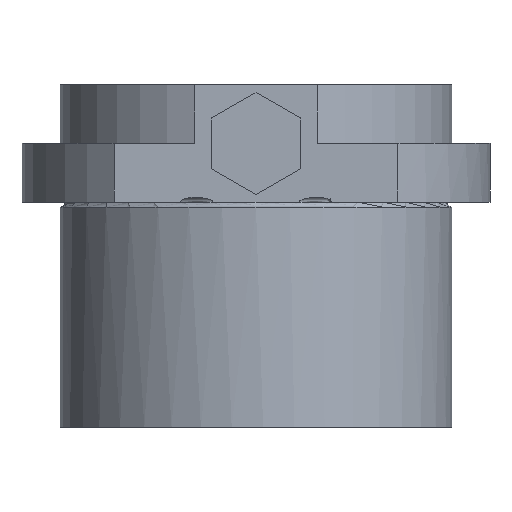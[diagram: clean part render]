
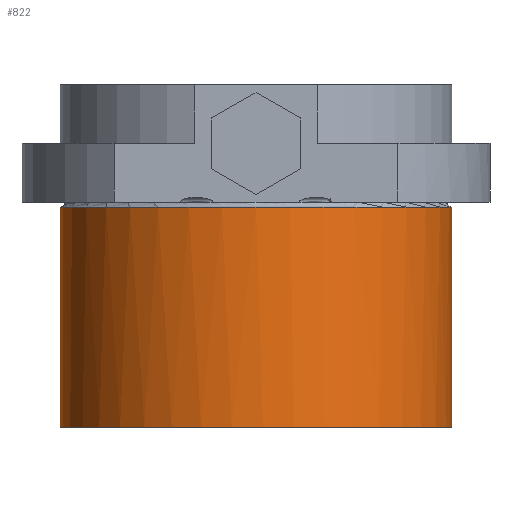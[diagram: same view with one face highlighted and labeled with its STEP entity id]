
A CAD part, front view. The second image highlights one B-rep face of the part: STEP entity #822.
In plain terms, the highlighted cylindrical face has radius 20 mm (diameter 40 mm), a partial arc.
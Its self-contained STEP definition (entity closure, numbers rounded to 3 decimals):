
#454=CARTESIAN_POINT('Control Point',(-20.,0.,-23.)) ;
#455=CARTESIAN_POINT('Control Point',(-20.,-1.972,-23.)) ;
#456=CARTESIAN_POINT('Control Point',(-19.757,-3.944,-23.)) ;
#457=CARTESIAN_POINT('Control Point',(-19.271,-5.876,-23.)) ;
#458=CARTESIAN_POINT('Control Point',(-17.833,-9.58,-23.)) ;
#459=CARTESIAN_POINT('Control Point',(-15.539,-12.824,-23.)) ;
#460=CARTESIAN_POINT('Control Point',(-14.196,-14.296,-23.)) ;
#461=CARTESIAN_POINT('Control Point',(-11.176,-16.878,-23.)) ;
#462=CARTESIAN_POINT('Control Point',(-7.62,-18.65,-23.)) ;
#463=CARTESIAN_POINT('Control Point',(-5.741,-19.311,-23.)) ;
#464=CARTESIAN_POINT('Control Point',(-1.859,-20.157,-23.)) ;
#465=CARTESIAN_POINT('Control Point',(2.113,-20.036,-23.)) ;
#466=CARTESIAN_POINT('Control Point',(4.081,-19.729,-23.)) ;
#467=CARTESIAN_POINT('Control Point',(7.902,-18.637,-23.)) ;
#468=CARTESIAN_POINT('Control Point',(11.343,-16.65,-23.)) ;
#469=CARTESIAN_POINT('Control Point',(12.932,-15.449,-23.)) ;
#470=CARTESIAN_POINT('Control Point',(15.781,-12.679,-23.)) ;
#471=CARTESIAN_POINT('Control Point',(17.872,-9.3,-23.)) ;
#472=CARTESIAN_POINT('Control Point',(18.703,-7.49,-23.)) ;
#473=CARTESIAN_POINT('Control Point',(19.526,-4.889,-23.)) ;
#474=CARTESIAN_POINT('Control Point',(19.899,-2.205,-23.)) ;
#475=CARTESIAN_POINT('Control Point',(19.966,-1.471,-23.)) ;
#476=CARTESIAN_POINT('Control Point',(20.,-0.736,-23.)) ;
#477=CARTESIAN_POINT('Control Point',(20.,0.,-23.)) ;
#478=CARTESIAN_POINT('Vertex',(-20.,0.,-23.)) ;
#480=CARTESIAN_POINT('Vertex',(20.,0.,-23.)) ;
#792=CARTESIAN_POINT('Axis2P3D Location',(0.,0.,12.)) ;
#797=CARTESIAN_POINT('Line Origine',(20.,0.,12.)) ;
#801=CARTESIAN_POINT('Vertex',(20.,0.,-0.5)) ;
#804=CARTESIAN_POINT('Axis2P3D Location',(0.,0.,-0.5)) ;
#808=CARTESIAN_POINT('Vertex',(-20.,0.,-0.5)) ;
#811=CARTESIAN_POINT('Line Origine',(-20.,0.,12.)) ;
#793=DIRECTION('Axis2P3D Direction',(0.,0.,-1.)) ;
#794=DIRECTION('Axis2P3D XDirection',(1.,0.,0.)) ;
#798=DIRECTION('Vector Direction',(0.,0.,-1.)) ;
#805=DIRECTION('Axis2P3D Direction',(0.,0.,-1.)) ;
#812=DIRECTION('Vector Direction',(0.,0.,-1.)) ;
#795=AXIS2_PLACEMENT_3D('Cylinder Axis2P3D',#792,#793,#794) ;
#806=AXIS2_PLACEMENT_3D('Circle Axis2P3D',#804,#805,$) ;
#817=ORIENTED_EDGE('',*,*,#803,.T.) ;
#818=ORIENTED_EDGE('',*,*,#810,.F.) ;
#819=ORIENTED_EDGE('',*,*,#815,.T.) ;
#820=ORIENTED_EDGE('',*,*,#482,.T.) ;
#799=VECTOR('Line Direction',#798,1.) ;
#813=VECTOR('Line Direction',#812,1.) ;
#822=ADVANCED_FACE('740-24',(#821),#796,.T.) ;
#453=B_SPLINE_CURVE_WITH_KNOTS('',5,(#454,#455,#456,#457,#458,#459,#460,#461,#462,#463,#464,#465,#466,#467,#468,#469,#470,#471,#472,#473,#474,#475,#476,#477),.UNSPECIFIED.,.F.,.U.,(6,3,3,3,3,3,3,6),(0.,13.943,27.885,41.828,55.77,69.713,83.656,88.857),.UNSPECIFIED.) ;
#807=CIRCLE('generated circle',#806,20.) ;
#796=CYLINDRICAL_SURFACE('generated cylinder',#795,20.) ;
#482=EDGE_CURVE('',#479,#481,#453,.T.) ;
#803=EDGE_CURVE('',#481,#802,#800,.F.) ;
#810=EDGE_CURVE('',#809,#802,#807,.F.) ;
#815=EDGE_CURVE('',#809,#479,#814,.T.) ;
#816=EDGE_LOOP('',(#817,#818,#819,#820)) ;
#821=FACE_OUTER_BOUND('',#816,.T.) ;
#800=LINE('Line',#797,#799) ;
#814=LINE('Line',#811,#813) ;
#479=VERTEX_POINT('',#478) ;
#481=VERTEX_POINT('',#480) ;
#802=VERTEX_POINT('',#801) ;
#809=VERTEX_POINT('',#808) ;
